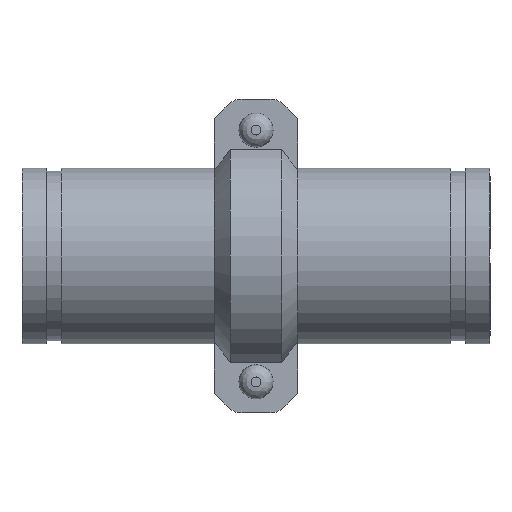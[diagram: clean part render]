
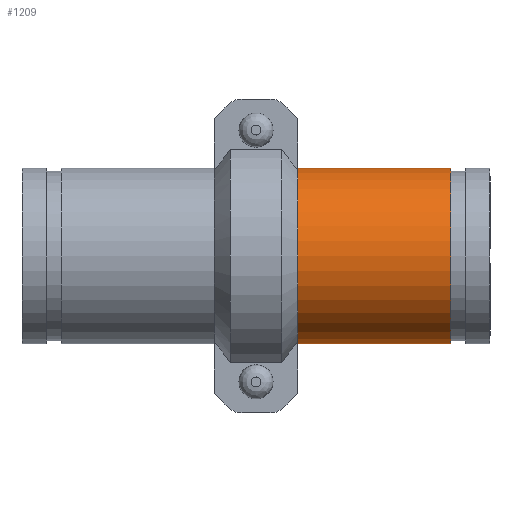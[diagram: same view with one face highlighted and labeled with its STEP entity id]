
A CAD part, front view. The second image highlights one B-rep face of the part: STEP entity #1209.
In plain terms, the highlighted cylindrical face has radius 57.15 mm (diameter 114.3 mm), a full revolution.
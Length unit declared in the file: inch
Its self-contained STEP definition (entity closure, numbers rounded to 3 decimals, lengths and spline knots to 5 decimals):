
#48=LINE('',#1929,#135);
#135=VECTOR('',#1570,2.25);
#222=CYLINDRICAL_SURFACE('',#1395,2.25);
#267=FACE_OUTER_BOUND('',#340,.T.);
#340=EDGE_LOOP('',(#797,#798,#799,#800,#801,#802));
#432=CIRCLE('',#1393,2.25);
#433=CIRCLE('',#1394,2.25);
#434=CIRCLE('',#1396,2.25);
#435=CIRCLE('',#1397,2.25);
#500=VERTEX_POINT('',#1920);
#501=VERTEX_POINT('',#1921);
#502=VERTEX_POINT('',#1925);
#503=VERTEX_POINT('',#1926);
#617=EDGE_CURVE('',#500,#501,#432,.T.);
#618=EDGE_CURVE('',#501,#500,#433,.T.);
#619=EDGE_CURVE('',#502,#503,#434,.T.);
#620=EDGE_CURVE('',#503,#502,#435,.T.);
#621=EDGE_CURVE('',#503,#501,#48,.T.);
#797=ORIENTED_EDGE('',*,*,#619,.F.);
#798=ORIENTED_EDGE('',*,*,#620,.F.);
#799=ORIENTED_EDGE('',*,*,#621,.T.);
#800=ORIENTED_EDGE('',*,*,#618,.T.);
#801=ORIENTED_EDGE('',*,*,#617,.T.);
#802=ORIENTED_EDGE('',*,*,#621,.F.);
#1209=ADVANCED_FACE('',(#267),#222,.T.);
#1393=AXIS2_PLACEMENT_3D('',#1922,#1560,#1561);
#1394=AXIS2_PLACEMENT_3D('',#1923,#1562,#1563);
#1395=AXIS2_PLACEMENT_3D('',#1924,#1564,#1565);
#1396=AXIS2_PLACEMENT_3D('',#1927,#1566,#1567);
#1397=AXIS2_PLACEMENT_3D('',#1928,#1568,#1569);
#1560=DIRECTION('center_axis',(-1.,0.,0.));
#1561=DIRECTION('ref_axis',(0.,0.,1.));
#1562=DIRECTION('center_axis',(-1.,0.,0.));
#1563=DIRECTION('ref_axis',(0.,0.,1.));
#1564=DIRECTION('center_axis',(-1.,0.,0.));
#1565=DIRECTION('ref_axis',(0.,1.,0.));
#1566=DIRECTION('center_axis',(-1.,0.,0.));
#1567=DIRECTION('ref_axis',(0.,0.,1.));
#1568=DIRECTION('center_axis',(-1.,0.,0.));
#1569=DIRECTION('ref_axis',(0.,0.,1.));
#1570=DIRECTION('',(1.,0.,0.));
#1920=CARTESIAN_POINT('',(1.985,2.25,0.));
#1921=CARTESIAN_POINT('',(1.985,-2.25,0.));
#1922=CARTESIAN_POINT('Origin',(1.985,0.,0.));
#1923=CARTESIAN_POINT('Origin',(1.985,0.,0.));
#1924=CARTESIAN_POINT('Origin',(0.,0.,
0.));
#1925=CARTESIAN_POINT('',(-1.985,2.25,0.));
#1926=CARTESIAN_POINT('',(-1.985,-2.25,0.));
#1927=CARTESIAN_POINT('Origin',(-1.985,0.,0.));
#1928=CARTESIAN_POINT('Origin',(-1.985,0.,0.));
#1929=CARTESIAN_POINT('',(0.,-2.25,0.));
